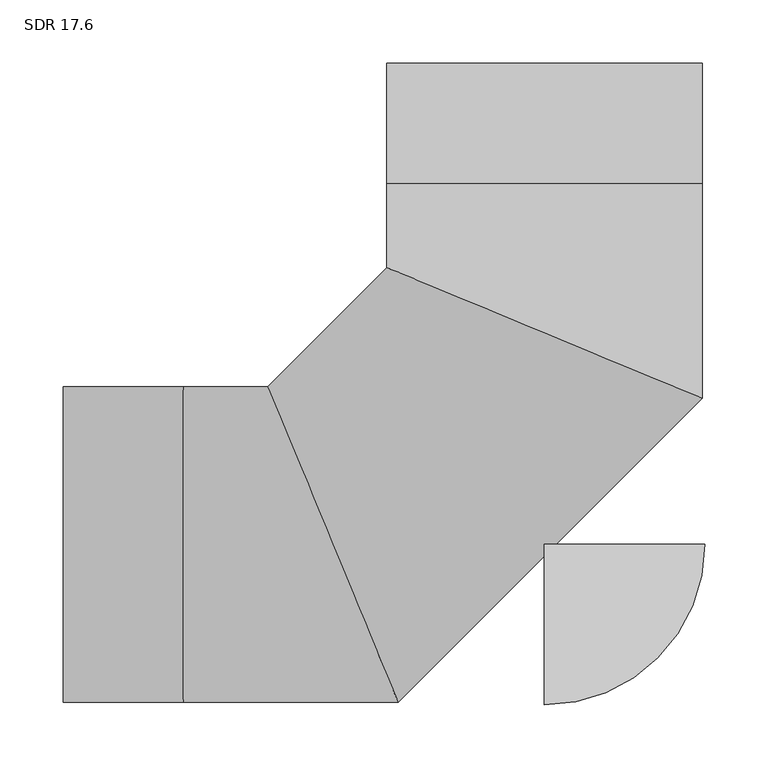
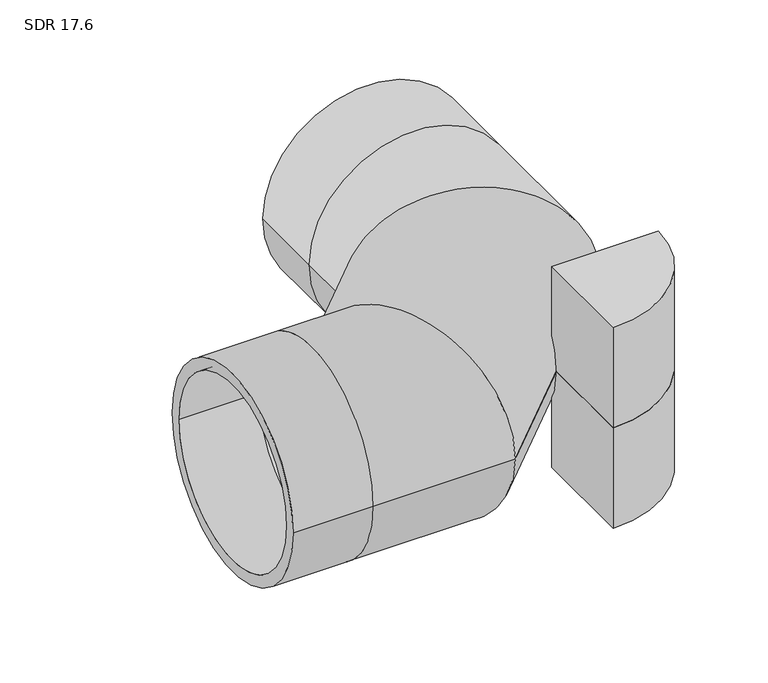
"""IFC4 building model written with IfcOpenShell, lengths in millimetres: pipe fitting geometry, Aquatherm - Elbow Blue BW Segmented : SDR 17.6."""

from ifc_helpers import new_model, si_unit, point, frame, origin, origin_with_axes, origin_2d, place, context, project, spatial, polyline, circle_curve, ellipse_curve, trimmed, segment, composite_curve, outline, extrude, source, transform, mapped, element, save
from ifc_brep_helpers import plane_surface, cylinder_surface, revolved_surface, advanced_brep


def sdr_17_6_840b483f(model_context):
    return source(origin(), model_context, "Body", "SolidModel", [
        extrude(outline(composite_curve([segment(polyline([(0.0, -127.0), (0.0, 0.0), (127.0, 0.0)]), True, "CONTINUOUS"), segment(trimmed(circle_curve(origin_2d(), 127.0), [point((127.0, 0.0))], [point((0.0, -127.0))], False, "CARTESIAN"), True, "CONTINUOUS")], self_intersect=False)), frame((0.0, 0.0, -127.0), z_axis=(0.0, 0.0, 1.0), x_axis=(1.0, 0.0, 0.0)), (0.0, 0.0, 1.0), 127.0),
        extrude(outline(composite_curve([segment(trimmed(circle_curve(origin_2d(), 127.0), [point((127.0, 0.0))], [point((0.0, -127.0))], False, "CARTESIAN"), True, "CONTINUOUS"), segment(polyline([(0.0, -127.0), (0.0, 0.0), (127.0, 0.0)]), True, "CONTINUOUS")], self_intersect=False)), origin_with_axes(), (0.0, 0.0, 1.0), 127.0),
        advanced_brep(
        [(-381.0, -124.968, 0.0), (-381.0, 124.968, 0.0), (-381.0, -110.7683515, 0.0), (-381.0, 110.7683515, 0.0), (124.968, 381.0, 0.0), (-124.968, 381.0, 0.0), (110.7683515, 381.0, 0.0), (-110.7683515, 381.0, 0.0), (-285.75, -124.968, 0.0), (-285.75, 124.968, 0.0), (-285.75, -110.7683515, 0.0), (-285.75, 110.7683515, 0.0), (-115.6250341, -124.968, 0.0), (-219.151915, 124.968, 0.0), (-121.5067211, -110.7683515, 0.0), (-213.270228, 110.7683515, 0.0), (124.968, 115.6250341, 0.0), (-124.968, 219.151915, 0.0), (110.7683515, 121.5067211, 0.0), (-110.7683515, 213.270228, 0.0), (-124.968, 285.75, 0.0), (124.968, 285.75, 0.0), (-110.7683515, 285.75, 0.0), (110.7683515, 285.75, 0.0)],
        [
            (0, 1, circle_curve(frame((-381.0, 0.0, 0.0), z_axis=(-1.0, 0.0, 0.0), x_axis=(0.0, 1.0, 0.0)), 124.968)),
            (1, 0, circle_curve(frame((-381.0, 0.0, 0.0), z_axis=(-1.0, 0.0, 0.0), x_axis=(0.0, 1.0, 0.0)), 124.968)),
            (2, 3, circle_curve(frame((-381.0, 0.0, 0.0), z_axis=(1.0, 0.0, 0.0), x_axis=(0.0, 1.0, 0.0)), 110.7683515)),
            (3, 2, circle_curve(frame((-381.0, 0.0, 0.0), z_axis=(1.0, 0.0, 0.0), x_axis=(0.0, 1.0, 0.0)), 110.7683515)),
            (4, 5, circle_curve(frame((0.0, 381.0, 0.0), z_axis=(0.0, 1.0, 0.0), x_axis=(-1.0, 0.0, 0.0)), 124.968)),
            (5, 4, circle_curve(frame((0.0, 381.0, 0.0), z_axis=(0.0, 1.0, 0.0), x_axis=(-1.0, 0.0, 0.0)), 124.968)),
            (6, 7, circle_curve(frame((0.0, 381.0, 0.0), z_axis=(0.0, -1.0, 0.0), x_axis=(-1.0, 0.0, 0.0)), 110.7683515)),
            (7, 6, circle_curve(frame((0.0, 381.0, 0.0), z_axis=(0.0, -1.0, 0.0), x_axis=(-1.0, 0.0, 0.0)), 110.7683515)),
            (0, 8),
            (8, 9, circle_curve(frame((-285.75, 0.0, 0.0), z_axis=(-1.0, 0.0, 0.0), x_axis=(0.0, 1.0, 0.0)), 124.968)),
            (9, 1),
            (9, 8, circle_curve(frame((-285.75, 0.0, 0.0), z_axis=(-1.0, 0.0, 0.0), x_axis=(0.0, 1.0, 0.0)), 124.968)),
            (2, 10),
            (10, 11, circle_curve(frame((-285.75, 0.0, 0.0), z_axis=(1.0, 0.0, 0.0), x_axis=(0.0, 1.0, 0.0)), 110.7683515)),
            (11, 3),
            (11, 10, circle_curve(frame((-285.75, 0.0, 0.0), z_axis=(1.0, 0.0, 0.0), x_axis=(0.0, 1.0, 0.0)), 110.7683515)),
            (8, 12),
            (12, 13, ellipse_curve(frame((-167.3884746, 0.0, 0.0), z_axis=(-0.9238795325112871, -0.38268343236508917, 0.0), x_axis=(-0.3826834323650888, 0.9238795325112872, 0.0)), 135.2643885, 124.968)),
            (13, 9),
            (13, 12, ellipse_curve(frame((-167.3884746, 0.0, 0.0), z_axis=(-0.9238795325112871, -0.38268343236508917, 0.0), x_axis=(-0.3826834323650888, 0.9238795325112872, 0.0)), 135.2643885, 124.968)),
            (10, 14),
            (14, 15, ellipse_curve(frame((-167.3884746, 0.0, 0.0), z_axis=(0.9238795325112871, 0.38268343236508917, 0.0), x_axis=(0.3826834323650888, -0.9238795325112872, 0.0)), 119.8947997, 110.7683515)),
            (15, 11),
            (15, 14, ellipse_curve(frame((-167.3884746, 0.0, 0.0), z_axis=(0.9238795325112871, 0.38268343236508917, 0.0), x_axis=(0.3826834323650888, -0.9238795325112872, 0.0)), 119.8947997, 110.7683515)),
            (12, 16),
            (16, 17, ellipse_curve(frame((0.0, 167.3884746, 0.0), z_axis=(-0.3826834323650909, -0.9238795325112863, 0.0), x_axis=(-0.9238795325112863, 0.382683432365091, 0.0)), 135.2643885, 124.968)),
            (17, 13),
            (17, 16, ellipse_curve(frame((0.0, 167.3884746, 0.0), z_axis=(-0.3826834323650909, -0.9238795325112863, 0.0), x_axis=(-0.9238795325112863, 0.382683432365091, 0.0)), 135.2643885, 124.968)),
            (14, 18),
            (18, 19, ellipse_curve(frame((0.0, 167.3884746, 0.0), z_axis=(0.3826834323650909, 0.9238795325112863, 0.0), x_axis=(0.9238795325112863, -0.382683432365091, 0.0)), 119.8947997, 110.7683515)),
            (19, 15),
            (19, 18, ellipse_curve(frame((0.0, 167.3884746, 0.0), z_axis=(0.3826834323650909, 0.9238795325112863, 0.0), x_axis=(0.9238795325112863, -0.382683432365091, 0.0)), 119.8947997, 110.7683515)),
            (20, 21, circle_curve(frame((0.0, 285.75, 0.0), z_axis=(0.0, 1.0, 0.0), x_axis=(-1.0, 0.0, 0.0)), 124.968)),
            (21, 4),
            (5, 20),
            (21, 20, circle_curve(frame((0.0, 285.75, 0.0), z_axis=(0.0, 1.0, 0.0), x_axis=(-1.0, 0.0, 0.0)), 124.968)),
            (22, 23, circle_curve(frame((0.0, 285.75, 0.0), z_axis=(0.0, -1.0, 0.0), x_axis=(-1.0, 0.0, 0.0)), 110.7683515)),
            (23, 6),
            (7, 22),
            (23, 22, circle_curve(frame((0.0, 285.75, 0.0), z_axis=(0.0, -1.0, 0.0), x_axis=(-1.0, 0.0, 0.0)), 110.7683515)),
            (16, 21),
            (20, 17),
            (18, 23),
            (22, 19),
        ],
        [
            plane_surface(frame((-381.0, 0.0, 0.0), z_axis=(-1.0, 0.0, 0.0), x_axis=(0.0, 0.0, 1.0))),
            plane_surface(frame((0.0, 381.0, 0.0), z_axis=(0.0, 1.0, 0.0), x_axis=(0.0, 0.0, 1.0))),
            cylinder_surface(frame((-381.0, 0.0, 0.0), z_axis=(-1.0, 0.0, 0.0), x_axis=(0.0, 1.0, 0.0)), 124.968),
            revolved_surface(polyline([(-285.75, 110.7683515, 0.0), (-381.0, 110.7683515, 0.0)]), (-381.0, 0.0, 0.0), (1.0, 0.0, 0.0)),
            cylinder_surface(frame((-285.75, 0.0, 0.0), z_axis=(-1.0, 0.0, 0.0), x_axis=(0.0, 1.0, 0.0)), 124.968),
            revolved_surface(polyline([(-121.5067211, 110.7683515, 0.0), (-285.75, 110.7683515, 0.0)]), (-285.75, 0.0, 0.0), (1.0, 0.0, 0.0)),
            cylinder_surface(frame((-167.3884746, 0.0, 0.0), z_axis=(-0.7071067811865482, -0.7071067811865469, 0.0), x_axis=(-0.7071067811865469, 0.7071067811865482, 0.0)), 124.968),
            revolved_surface(polyline([(-45.881753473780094, 278.1568260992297, 0.0), (-278.15682609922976, 45.88175347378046, 0.0)]), (-167.3884746, 0.0, 0.0), (0.7071067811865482, 0.7071067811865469, 0.0)),
            cylinder_surface(frame((0.0, 285.75, 0.0), z_axis=(0.0, -1.0, 0.0), x_axis=(-1.0, 0.0, 0.0)), 124.968),
            revolved_surface(polyline([(-110.7683515, 381.0, 0.0), (-110.7683515, 285.75, 0.0)]), (0.0, 285.75, 0.0), (0.0, 1.0, 0.0)),
            cylinder_surface(frame((0.0, 167.3884746, 0.0), z_axis=(0.0, -1.0, 0.0), x_axis=(-1.0, 0.0, 0.0)), 124.968),
            revolved_surface(polyline([(-110.7683515, 285.75, 0.0), (-110.7683515, 121.5067211, 0.0)]), (0.0, 167.3884746, 0.0), (0.0, 1.0, 0.0)),
        ],
        [
            (0, [[1, 2], [3, 4]]),
            (1, [[5, 6], [7, 8]]),
            (2, [[-1, 9, 10, 11]]),
            (2, [[-2, -11, 12, -9]]),
            (3, [[-3, 13, 14, 15]]),
            (3, [[-4, -15, 16, -13]]),
            (4, [[-10, 17, 18, 19]]),
            (4, [[-12, -19, 20, -17]]),
            (5, [[-14, 21, 22, 23]]),
            (5, [[-16, -23, 24, -21]]),
            (6, [[-18, 25, 26, 27]]),
            (6, [[-20, -27, 28, -25]]),
            (7, [[-22, 29, 30, 31]]),
            (7, [[-24, -31, 32, -29]]),
            (8, [[33, 34, -6, 35]]),
            (8, [[36, -35, -5, -34]]),
            (9, [[37, 38, -8, 39]]),
            (9, [[40, -39, -7, -38]]),
            (10, [[-26, 41, -33, 42]]),
            (10, [[-28, -42, -36, -41]]),
            (11, [[-30, 43, -37, 44]]),
            (11, [[-32, -44, -40, -43]]),
        ],
    ),
    ])


if __name__ == "__main__":
    model = new_model("IFC4")
    model_context = context("Model", 3, world=origin())
    ifc_project = project(units=[si_unit("LENGTHUNIT", "METRE", prefix="MILLI")], contexts=[model_context])
    site = spatial("IfcSite", under=ifc_project)
    building = spatial("IfcBuilding", under=site)
    placement = place(None, origin())
    sdr_17_6_shape = sdr_17_6_840b483f(model_context)
    element("IfcPipeFitting", 1, ObjectType="Aquatherm - Elbow Blue BW Segmented : SDR 17.6", at=placement, inside=building, context=model_context, shape_type="MappedRepresentation", body=[
        mapped(sdr_17_6_shape, transform((0.0, 0.0, 0.0), x_axis=(1.0, 0.0, 0.0), y_axis=(0.0, 1.0, 0.0), z_axis=(0.0, 0.0, 1.0))),
    ])
    save(model, "model.ifc")
